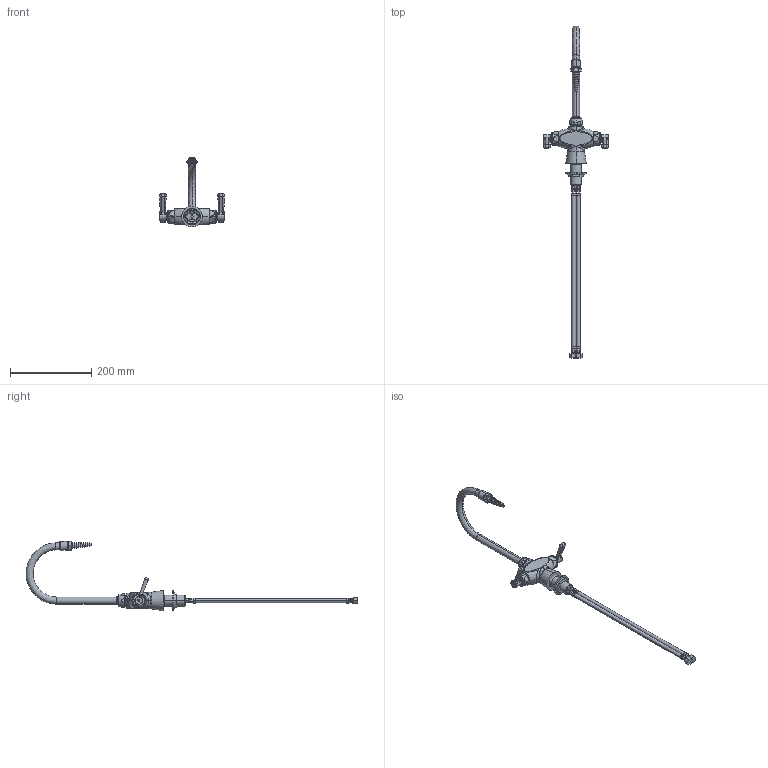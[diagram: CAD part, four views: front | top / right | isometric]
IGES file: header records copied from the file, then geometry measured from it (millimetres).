
Start section:  PTC IGES file: 929-369CP_REV103013.igs
Global section: file name: 929-369CP_REV103013.igs; native system: Creo Parametric by Parametric Technology Corporation; preprocessor: 2013050; author: SDmitruk; organization: Unknown; date: 20131030.164434; units: inch
Bounding box: 161.32 x 816.69 x 171.8 mm (x, y, z)
Surface area: 116758.7 mm2 (no closed solid volume)
Topology: 0 solids, 0 shells, 460 faces, 3449 edges, 4633 vertices
Faces by surface type: bspline 257, revolution 203
